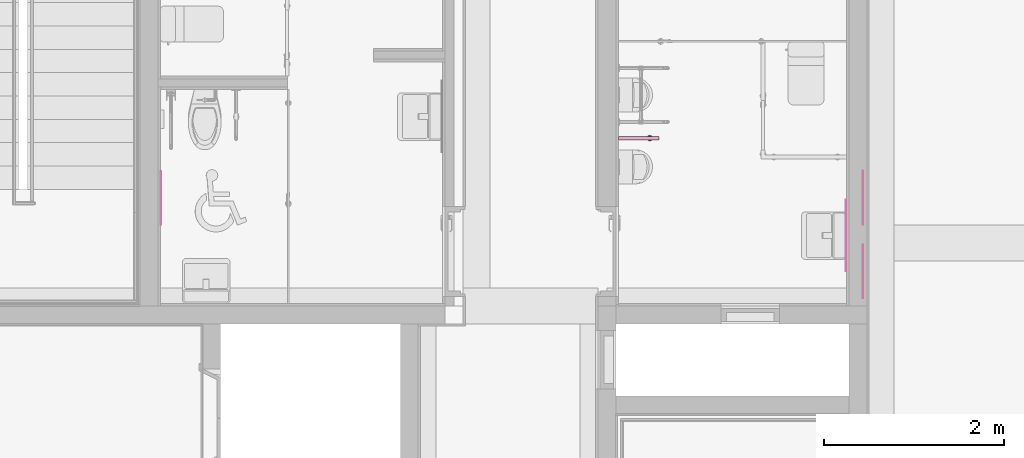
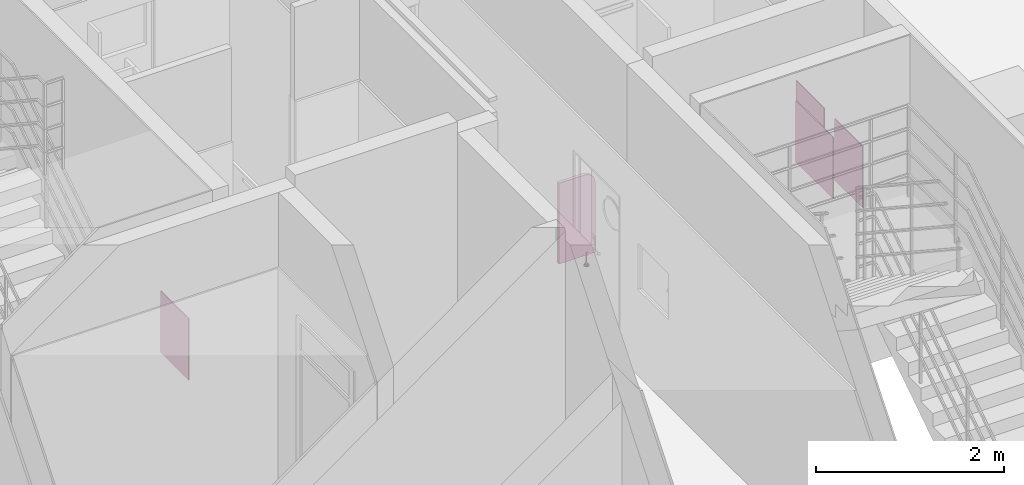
# One storey, part 72 of 76: 5 furnishings.
"""IFC2X3 building model written with IfcOpenShell, lengths in millimetres."""

from ifc_helpers import new_model, entity, si_unit, converted_unit, derived_unit, direction, frame, origin, origin_2d_with_axis, place, context, subcontext, project, spatial, rectangle, extrude, faceted_brep, source, transform, mapped, material, material_list, type_object, type_shapes, element, save


model = new_model("IFC2X3")

# Units and contexts
model_context = context("Model", 3, precision=0.01, world=origin(), true_north=direction((6.123031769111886e-17, 1.0)))
body_context = subcontext(model_context, "Body", "Model", "MODEL_VIEW")
ifc_project = project(units=[si_unit("LENGTHUNIT", "METRE", prefix="MILLI"), si_unit("AREAUNIT", "SQUARE_METRE"), si_unit("VOLUMEUNIT", "CUBIC_METRE"), converted_unit("PLANEANGLEUNIT", "DEGREE", entity("IfcRatioMeasure", 0.017453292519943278), si_unit("PLANEANGLEUNIT", "RADIAN"), dimensions=[0, 0, 0, 0, 0, 0, 0]), si_unit("MASSUNIT", "GRAM", prefix="KILO"), derived_unit("MASSDENSITYUNIT", [(si_unit("MASSUNIT", "GRAM", prefix="KILO"), 1), (si_unit("LENGTHUNIT", "METRE"), -3)]), derived_unit("MOMENTOFINERTIAUNIT", [(si_unit("LENGTHUNIT", "METRE"), 4)]), si_unit("TIMEUNIT", "SECOND"), si_unit("FREQUENCYUNIT", "HERTZ"), si_unit("THERMODYNAMICTEMPERATUREUNIT", "DEGREE_CELSIUS"), derived_unit("THERMALTRANSMITTANCEUNIT", [(si_unit("MASSUNIT", "GRAM", prefix="KILO"), 1), (si_unit("THERMODYNAMICTEMPERATUREUNIT", "KELVIN"), -1), (si_unit("TIMEUNIT", "SECOND"), -3)]), derived_unit("VOLUMETRICFLOWRATEUNIT", [(si_unit("LENGTHUNIT", "METRE"), 3), (si_unit("TIMEUNIT", "SECOND"), -1)]), derived_unit("MASSFLOWRATEUNIT", [(si_unit("MASSUNIT", "GRAM", prefix="KILO"), 1), (si_unit("TIMEUNIT", "SECOND"), -1)]), derived_unit("ROTATIONALFREQUENCYUNIT", [(si_unit("TIMEUNIT", "SECOND"), -1)]), si_unit("ELECTRICCURRENTUNIT", "AMPERE"), si_unit("ELECTRICVOLTAGEUNIT", "VOLT"), si_unit("POWERUNIT", "WATT"), si_unit("FORCEUNIT", "NEWTON", prefix="KILO"), si_unit("ILLUMINANCEUNIT", "LUX"), si_unit("LUMINOUSFLUXUNIT", "LUMEN"), si_unit("LUMINOUSINTENSITYUNIT", "CANDELA"), derived_unit("USERDEFINED", [(si_unit("MASSUNIT", "GRAM", prefix="KILO"), -1), (si_unit("LENGTHUNIT", "METRE"), -2), (si_unit("TIMEUNIT", "SECOND"), 3), (si_unit("LUMINOUSFLUXUNIT", "LUMEN"), 1)]), derived_unit("SOUNDPOWERUNIT", [(si_unit("MASSUNIT", "GRAM", prefix="KILO"), 1), (si_unit("LENGTHUNIT", "METRE"), 2), (si_unit("TIMEUNIT", "SECOND"), -3)]), derived_unit("SOUNDPRESSUREUNIT", [(si_unit("MASSUNIT", "GRAM", prefix="KILO"), 1), (si_unit("LENGTHUNIT", "METRE"), -1), (si_unit("TIMEUNIT", "SECOND"), -2)]), derived_unit("LINEARVELOCITYUNIT", [(si_unit("LENGTHUNIT", "METRE"), 1), (si_unit("TIMEUNIT", "SECOND"), -1)]), si_unit("PRESSUREUNIT", "PASCAL"), derived_unit("USERDEFINED", [(si_unit("LENGTHUNIT", "METRE"), -2), (si_unit("MASSUNIT", "GRAM", prefix="KILO"), 1), (si_unit("TIMEUNIT", "SECOND"), -2)]), derived_unit("LINEARFORCEUNIT", [(si_unit("MASSUNIT", "GRAM", prefix="KILO"), 1), (si_unit("LENGTHUNIT", "METRE"), 1), (si_unit("TIMEUNIT", "SECOND"), -2), (si_unit("LENGTHUNIT", "METRE"), -1)]), derived_unit("PLANARFORCEUNIT", [(si_unit("MASSUNIT", "GRAM", prefix="KILO"), 1), (si_unit("LENGTHUNIT", "METRE"), 1), (si_unit("TIMEUNIT", "SECOND"), -2), (si_unit("LENGTHUNIT", "METRE"), -2)])], contexts=[model_context])

# Site, building, storey, space
site_placement = place(None, frame((-14167.972527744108, -657.2125860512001, 0.0)))
site = spatial("IfcSite", under=ifc_project, at=site_placement, Name="Default", CompositionType="ELEMENT")
building_placement = place(site_placement, origin())
building = spatial("IfcBuilding", under=site, at=building_placement, Name="Sample Building", CompositionType="ELEMENT")
storey_placement = place(building_placement, frame((0.0, 0.0, 9300.0)))
storey = spatial("IfcBuildingStorey", under=building, at=storey_placement, Name="지상 3층", CompositionType="ELEMENT", Elevation=9300.000000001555)
space_1_placement = place(storey_placement, origin())
space_1 = spatial("IfcSpace", under=storey, at=space_1_placement, Name="203", CompositionType="ELEMENT", InteriorOrExteriorSpace="INTERNAL")

# Furnishings
ifc_material_1 = material(Name="KBIMS-거울")
furniture_type_1 = type_object("IfcFurnitureType", Name="PF531-거울:PF531-거울 800x800", material=ifc_material_1)
shared_shape_1 = source(origin(), body_context, "Body", "SweptSolid", [
    extrude(rectangle(XDim=10.000000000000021, YDim=799.9999999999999, at=origin_2d_with_axis()), frame((0.0, 5.0, 0.0), z_axis=(0.0, 0.0, 1.0), x_axis=(0.0, 1.0, 0.0)), (0.0, 0.0, 1.0), 800.0000000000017),
])
type_shapes(furniture_type_1, [shared_shape_1])
furnishing_1_placement = place(space_1_placement, frame((40737.96375501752, 23242.21230182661, 1000.0), z_axis=(0.0, 0.0, 1.0), x_axis=(0.0, 1.0, 0.0)))
element("IfcFurnishingElement", 1, at=furnishing_1_placement, inside=space_1, type_object=furniture_type_1, material=ifc_material_1, Name="PF531-거울:PF531-거울 800x800", ObjectType="PF531-거울:PF531-거울 800x800", context=body_context, shape_type="MappedRepresentation", body=[
    mapped(shared_shape_1, transform((0.0, 0.0, 0.0), scale=1.0)),
])
ifc_material_2 = material(Name="KBIMS-스테인리스 스틸_도금")
ifc_material_3 = material(Name="KBIMS-이동식칸막이")
ifc_material_list_1 = material_list([ifc_material_2, ifc_material_3])
ifc_material_list_2 = material_list([ifc_material_2, ifc_material_2, ifc_material_3])
furniture_type_2 = type_object("IfcFurnitureType", Name="PF582-소변기 칸막이:PF582-소변기 칸막이", material=ifc_material_list_2)
shared_shape_2 = source(origin(), body_context, "Body", "Brep", [
    faceted_brep([(-25.0, -365.0, 145.0), (25.0, -365.0, 145.0), (25.0, -365.0, 185.0), (20.0, -365.0, 185.0), (20.0, -365.0, 150.0), (-20.0, -365.0, 150.0), (-20.0, -365.0, 185.0), (-25.0, -365.0, 185.0), (-25.0, -335.0, 145.0), (-25.0, -335.0, 185.0), (-20.0, -335.0, 185.0), (-20.0, -335.0, 150.0), (20.0, -335.0, 150.0), (20.0, -335.0, 185.0), (25.0, -335.0, 185.0), (25.0, -335.0, 145.0)], [[[0, 1, 2, 3, 4, 5, 6, 7]], [[8, 9, 10, 11, 12, 13, 14, 15]], [[1, 0, 8, 15]], [[2, 1, 15, 14]], [[3, 2, 14, 13]], [[4, 3, 13, 12]], [[5, 4, 12, 11]], [[6, 5, 11, 10]], [[7, 6, 10, 9]], [[0, 7, 9, 8]]]),
    faceted_brep([(-22.500526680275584, -327.4994733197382, 7.2339182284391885), (-4.687500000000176, -345.1286071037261, 43.5703700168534), (-3.7500000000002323, -343.5048094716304, 43.5703700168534), (-6.562500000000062, -348.3762023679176, 43.5703700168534), (-5.625000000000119, -346.7524047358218, 43.5703700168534), (-30.736291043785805, -341.7642356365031, 7.233918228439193), (-28.529524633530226, -333.5284712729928, 7.2339182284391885), (-32.94305745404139, -350.0, 7.233918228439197), (-7.500000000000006, -350.0, 43.5703700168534), (-8.235764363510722, -319.26370895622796, 7.2339182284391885), (-16.47152872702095, -321.4704753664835, 7.2339182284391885), (-1.8750000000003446, -343.5048094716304, 43.5703700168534), (0.0, -343.5048094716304, 43.5703700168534), (0.0, -317.0569425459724, 7.2339182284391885), (3.7499999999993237, -343.5048094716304, 43.5703700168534), (16.471528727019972, -321.47047536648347, 7.2339182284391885), (1.8749999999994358, -343.5048094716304, 43.5703700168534), (8.235764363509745, -319.2637089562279, 7.2339182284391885), (-31.34057496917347, -344.019453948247, 7.2339182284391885), (32.943057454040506, -350.0, 7.2339182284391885), (6.56249999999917, -348.3762023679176, 43.5703700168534), (7.499999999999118, -350.0, 43.5703700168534), (4.687499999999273, -345.1286071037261, 43.5703700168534), (5.62499999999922, -346.7524047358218, 43.5703700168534), (22.50052668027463, -327.4994733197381, 7.2339182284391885), (30.339293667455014, -340.2826212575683, 7.2339182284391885), (28.529524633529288, -333.52847127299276, 7.2339182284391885), (30.73629104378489, -341.764235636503, 7.2339182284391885), (3.7499999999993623, -356.4951905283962, 43.5703700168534), (16.471528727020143, -378.52952463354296, 7.2339182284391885), (22.50052668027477, -372.5005266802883, 7.2339182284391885), (0.0, -356.4951905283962, 43.5703700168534), (8.235764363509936, -380.73629104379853, 7.2339182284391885), (1.8749999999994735, -356.4951905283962, 43.5703700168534), (-3.7500000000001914, -356.4951905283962, 43.5703700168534), (-8.23576436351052, -380.7362910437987, 7.2339182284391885), (-1.8750000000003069, -356.4951905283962, 43.5703700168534), (6.562499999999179, -351.623797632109, 43.5703700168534), (5.62499999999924, -353.24759526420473, 43.5703700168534), (30.73629104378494, -358.23576436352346, 7.233918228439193), (4.687499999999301, -354.87139289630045, 43.5703700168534), (-22.500526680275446, -372.50052668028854, 7.2339182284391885), (-16.471528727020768, -378.5295246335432, 7.2339182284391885), (-4.687500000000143, -354.87139289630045, 43.5703700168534), (0.0, -382.9430574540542, 7.2339182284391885), (-5.625000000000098, -353.24759526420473, 43.5703700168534), (-6.562500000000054, -351.623797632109, 43.5703700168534), (-28.529524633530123, -366.47152872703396, 7.2339182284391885), (-30.339293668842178, -359.7173787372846, 7.2339182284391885), (31.340574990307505, -355.980545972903, 7.2339182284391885), (28.529524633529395, -366.4715287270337, 7.2339182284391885), (-30.73629104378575, -358.23576436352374, 7.2339182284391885), (-28.52952463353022, -333.5284712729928, 0.0), (-30.7362910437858, -341.7642356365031, 0.0), (-32.94305745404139, -350.0, 0.0), (-16.471528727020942, -321.4704753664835, 0.0), (-22.500526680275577, -327.4994733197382, 0.0), (0.0, -317.0569425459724, 0.0), (-8.235764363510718, -319.26370895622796, 0.0), (16.47152872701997, -321.47047536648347, 0.0), (8.235764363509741, -319.2637089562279, 0.0), (28.52952463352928, -333.52847127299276, 0.0), (22.500526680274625, -327.4994733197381, 0.0), (32.9430574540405, -350.0, 0.0), (31.340574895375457, -344.01945367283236, 0.0), (28.529524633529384, -366.4715287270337, 0.0), (30.73629104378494, -358.23576436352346, 0.0), (16.47152872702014, -378.52952463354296, 0.0), (22.500526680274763, -372.5005266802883, 0.0), (0.0, -382.9430574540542, 0.0), (8.235764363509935, -380.73629104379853, 0.0), (-16.471528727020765, -378.5295246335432, 0.0), (-8.235764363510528, -380.7362910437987, 0.0), (-28.529524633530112, -366.47152872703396, 0.0), (-22.500526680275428, -372.50052668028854, 0.0), (-31.340574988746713, -355.98054597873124, 0.0), (0.0, -350.0, 0.0), (0.0, -350.0, 145.0), (7.49999999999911, -350.0, 145.0), (3.749999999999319, -343.5048094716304, 145.0), (-3.7500000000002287, -343.5048094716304, 145.0), (-7.499999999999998, -350.0, 145.0), (3.7499999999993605, -356.4951905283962, 145.0), (-3.7500000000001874, -356.4951905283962, 145.0)], [[[0, 1, 2]], [[3, 4, 5]], [[6, 1, 0]], [[6, 4, 1]], [[7, 8, 3]], [[9, 10, 11]], [[12, 13, 9]], [[14, 15, 16]], [[10, 2, 11]], [[12, 17, 13]], [[17, 12, 16]], [[12, 9, 11]], [[3, 5, 18, 7]], [[19, 20, 21]], [[15, 14, 22]], [[22, 23, 24]], [[25, 26, 23]], [[4, 6, 5]], [[2, 10, 0]], [[16, 15, 17]], [[20, 19, 27, 25]], [[25, 23, 20]], [[23, 26, 24]], [[15, 22, 24]], [[28, 29, 30]], [[31, 32, 33]], [[34, 35, 36]], [[37, 38, 39]], [[30, 40, 28]], [[41, 42, 43]], [[32, 29, 33]], [[31, 44, 32]], [[19, 21, 37]], [[36, 35, 44]], [[34, 42, 35]], [[45, 41, 43]], [[7, 46, 8]], [[42, 34, 43]], [[45, 47, 41]], [[48, 47, 45]], [[37, 39, 49, 19]], [[38, 50, 39]], [[38, 40, 50]], [[29, 28, 33]], [[50, 40, 30]], [[44, 31, 36]], [[46, 7, 51, 48]], [[48, 45, 46]], [[52, 53, 54, 7, 18, 5, 6]], [[10, 55, 56, 52, 6, 0]], [[55, 10, 9, 13, 57, 58]], [[15, 59, 60, 57, 13, 17]], [[26, 61, 62, 59, 15, 24]], [[61, 26, 25, 27, 19, 63, 64]], [[65, 66, 63, 19, 49, 39, 50]], [[29, 67, 68, 65, 50, 30]], [[67, 29, 32, 44, 69, 70]], [[42, 71, 72, 69, 44, 35]], [[47, 73, 74, 71, 42, 41]], [[73, 47, 48, 51, 7, 54, 75]], [[76, 61, 64]], [[76, 64, 63]], [[76, 63, 66]], [[76, 62, 61]], [[76, 59, 62]], [[76, 60, 59]], [[76, 57, 60]], [[76, 58, 57]], [[76, 55, 58]], [[76, 56, 55]], [[76, 52, 56]], [[76, 53, 52]], [[76, 54, 53]], [[76, 66, 65]], [[76, 65, 68]], [[76, 68, 67]], [[76, 67, 70]], [[76, 70, 69]], [[76, 69, 72]], [[76, 75, 54]], [[76, 73, 75]], [[76, 74, 73]], [[76, 71, 74]], [[76, 72, 71]], [[77, 78, 79]], [[79, 80, 77]], [[80, 81, 77]], [[77, 82, 78]], [[81, 83, 77]], [[82, 77, 83]], [[81, 80, 2, 1, 4, 3, 8]], [[80, 79, 14, 16, 12, 11, 2]], [[79, 78, 21, 20, 23, 22, 14]], [[78, 82, 28, 40, 38, 37, 21]], [[82, 83, 34, 36, 31, 33, 28]], [[83, 81, 8, 46, 45, 43, 34]]]),
    faceted_brep([(20.0, 0.0, 150.0), (20.0, 0.0, 1200.0), (20.0, -310.0, 1200.0), (20.0, -346.2346663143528, 1195.2296156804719), (20.0, -380.0, 1181.2435565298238), (20.0, -408.9949493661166, 1158.9949493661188), (20.0, -431.2435565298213, 1130.0), (20.0, -445.2296156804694, 1096.234666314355), (20.0, -450.0, 1060.0), (20.0, -450.0, 150.0), (-20.0, -431.2435565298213, 1130.0), (-20.0, -408.9949493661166, 1158.9949493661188), (-20.0, -380.0, 1181.2435565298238), (-20.0, -346.2346663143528, 1195.2296156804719), (-20.0, -310.0, 1200.0), (-20.0, 0.0, 1200.0), (-20.0, 0.0, 150.0), (-20.0, -450.0, 150.0), (-20.0, -450.0, 1060.0), (-20.0, -445.2296156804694, 1096.234666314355)], [[[0, 1, 2, 3, 4, 5, 6, 7, 8, 9]], [[10, 11, 12, 13, 14, 15, 16, 17, 18, 19]], [[2, 1, 15, 14]], [[3, 2, 14, 13]], [[4, 3, 13, 12]], [[5, 4, 12, 11]], [[6, 5, 11, 10]], [[7, 6, 10, 19]], [[8, 7, 19, 18]], [[9, 8, 18, 17]], [[0, 9, 17, 16]], [[1, 0, 16, 15]]]),
])
type_shapes(furniture_type_2, [shared_shape_2])
furnishing_2_placement = place(space_1_placement, frame((38197.963755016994, 24327.099955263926, 0.0), z_axis=(0.0, 0.0, 1.0), x_axis=(0.0, 1.0, 0.0)))
element("IfcFurnishingElement", 2, at=furnishing_2_placement, inside=space_1, type_object=furniture_type_2, material=ifc_material_list_1, Name="PF582-소변기 칸막이:PF582-소변기 칸막이", ObjectType="PF582-소변기 칸막이:PF582-소변기 칸막이", context=body_context, shape_type="MappedRepresentation", body=[
    mapped(shared_shape_2, transform((0.0, 0.0, 0.0), scale=1.0)),
])
furniture_type_3 = type_object("IfcFurnitureType", Name="PF531-거울:PF531-거울 600x800", material=ifc_material_1)
shared_shape_3 = source(origin(), body_context, "Body", "SweptSolid", [
    extrude(rectangle(XDim=10.000000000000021, YDim=600.0, at=origin_2d_with_axis()), frame((0.0, 5.0, 0.0), z_axis=(0.0, 0.0, 1.0), x_axis=(0.0, 1.0, 0.0)), (0.0, 0.0, 1.0), 800.000000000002),
])
type_shapes(furniture_type_3, [shared_shape_3])
for number, where, z_axis, x_axis in (
    (3, (40926.663542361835, 23662.177650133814, 1000.0), (0.0, 0.0, 1.0), (0.0, 1.0, 0.0)),
    (4, (40926.663542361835, 22842.177651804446, 1000.0), (0.0, 0.0, 1.0), (0.0, 1.0, 0.0)),
):
    element("IfcFurnishingElement", number, at=place(storey_placement, frame(where, z_axis=z_axis, x_axis=x_axis)), inside=storey, type_object=furniture_type_3, material=ifc_material_1, Name="PF531-거울:PF531-거울 600x800", ObjectType="PF531-거울:PF531-거울 600x800", context=body_context, shape_type="MappedRepresentation", body=[
        mapped(shared_shape_3, transform((0.0, 0.0, 0.0), scale=1.0)),
    ])

# Space
space_2_placement = place(storey_placement, origin())
space_2 = spatial("IfcSpace", under=storey, at=space_2_placement, Name="202", CompositionType="ELEMENT", InteriorOrExteriorSpace="INTERNAL")

# Furnishing
furniture_type_4 = type_object("IfcFurnitureType", Name="PF531-거울:PF531-거울 600x800", material=ifc_material_1)
shared_shape_4 = source(origin(), body_context, "Body", "SweptSolid", [
    extrude(rectangle(XDim=600.0, YDim=10.000000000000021, at=origin_2d_with_axis()), frame((0.0, -5.0, 0.0), z_axis=(0.0, 0.0, 1.0), x_axis=(-1.0, 0.0, 0.0)), (0.0, 0.0, 1.0), 800.000000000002),
])
type_shapes(furniture_type_4, [shared_shape_4])
furnishing_3_placement = place(space_2_placement, frame((33097.97249113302, 23661.24168022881, 1000.0), z_axis=(0.0, 0.0, 1.0), x_axis=(0.0, 1.0, 0.0)))
element("IfcFurnishingElement", 5, at=furnishing_3_placement, inside=space_2, type_object=furniture_type_4, material=ifc_material_1, Name="PF531-거울:PF531-거울 600x800", ObjectType="PF531-거울:PF531-거울 600x800", context=body_context, shape_type="MappedRepresentation", body=[
    mapped(shared_shape_4, transform((0.0, 0.0, 0.0), scale=1.0)),
])

save(model, "model.ifc")
